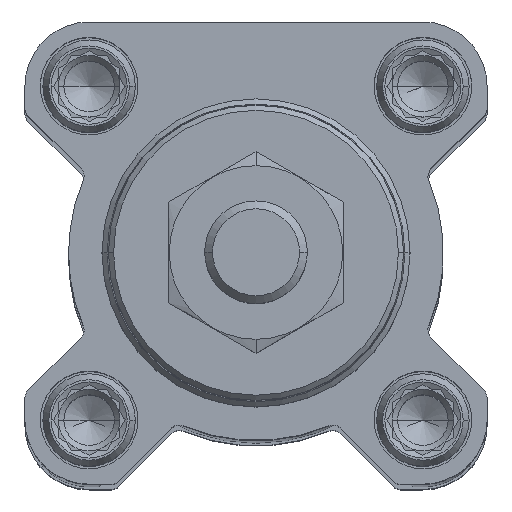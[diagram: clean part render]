
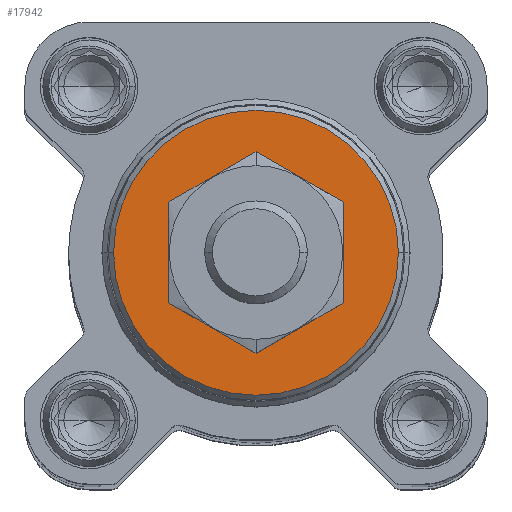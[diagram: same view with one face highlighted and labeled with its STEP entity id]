
A CAD part, top view. The second image highlights one B-rep face of the part: STEP entity #17942.
In plain terms, the highlighted planar face has unit normal (0, 0, 1).
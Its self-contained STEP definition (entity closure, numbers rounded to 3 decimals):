
#94 = CARTESIAN_POINT ( 'NONE',  ( 6., 0., 18. ) ) ;
#221 = PLANE ( 'NONE',  #2656 ) ;
#755 = CARTESIAN_POINT ( 'NONE',  ( -13.869, 0., 18. ) ) ;
#1234 = DIRECTION ( 'NONE',  ( -1., 0., 0. ) ) ;
#1266 = DIRECTION ( 'NONE',  ( -1., 0., 0. ) ) ;
#1822 = DIRECTION ( 'NONE',  ( 0., -1., 0. ) ) ;
#2422 = VERTEX_POINT ( 'NONE', #12009 ) ;
#2600 = AXIS2_PLACEMENT_3D ( 'NONE', #3843, #5544, #1234 ) ;
#2650 = EDGE_LOOP ( 'NONE', ( #8624, #3642 ) ) ;
#2656 = AXIS2_PLACEMENT_3D ( 'NONE', #7908, #6624, #1822 ) ;
#2859 = CARTESIAN_POINT ( 'NONE',  ( 0., 0., 18. ) ) ;
#3642 = ORIENTED_EDGE ( 'NONE', *, *, #17744, .F. ) ;
#3843 = CARTESIAN_POINT ( 'NONE',  ( 0., 0., 18. ) ) ;
#3958 = CIRCLE ( 'NONE', #16645, 6. ) ;
#5544 = DIRECTION ( 'NONE',  ( 0., 0., -1. ) ) ;
#5954 = VERTEX_POINT ( 'NONE', #755 ) ;
#6624 = DIRECTION ( 'NONE',  ( 0., 0., -1. ) ) ;
#6668 = DIRECTION ( 'NONE',  ( 0., 0., -1. ) ) ;
#6778 = AXIS2_PLACEMENT_3D ( 'NONE', #2859, #17889, #1266 ) ;
#7908 = CARTESIAN_POINT ( 'NONE',  ( 0., 0., 18. ) ) ;
#8624 = ORIENTED_EDGE ( 'NONE', *, *, #9187, .F. ) ;
#8631 = VERTEX_POINT ( 'NONE', #11018 ) ;
#9187 = EDGE_CURVE ( 'NONE', #5954, #2422, #11219, .T. ) ;
#10285 = AXIS2_PLACEMENT_3D ( 'NONE', #11246, #6668, #16170 ) ;
#11018 = CARTESIAN_POINT ( 'NONE',  ( -6., 0., 18. ) ) ;
#11123 = EDGE_CURVE ( 'NONE', #17124, #8631, #3958, .T. ) ;
#11219 = CIRCLE ( 'NONE', #6778, 13.869 ) ;
#11246 = CARTESIAN_POINT ( 'NONE',  ( 0., 0., 18. ) ) ;
#11533 = CIRCLE ( 'NONE', #10285, 13.869 ) ;
#12009 = CARTESIAN_POINT ( 'NONE',  ( 13.869, 0., 18. ) ) ;
#12112 = CIRCLE ( 'NONE', #2600, 6. ) ;
#13281 = DIRECTION ( 'NONE',  ( 0., 0., -1. ) ) ;
#13370 = DIRECTION ( 'NONE',  ( -1., 0., 0. ) ) ;
#13805 = EDGE_CURVE ( 'NONE', #8631, #17124, #12112, .T. ) ;
#14582 = ORIENTED_EDGE ( 'NONE', *, *, #11123, .T. ) ;
#14776 = CARTESIAN_POINT ( 'NONE',  ( 0., 0., 18. ) ) ;
#15467 = FACE_BOUND ( 'NONE', #17646, .T. ) ;
#15666 = FACE_OUTER_BOUND ( 'NONE', #2650, .T. ) ;
#16170 = DIRECTION ( 'NONE',  ( -1., 0., 0. ) ) ;
#16222 = ORIENTED_EDGE ( 'NONE', *, *, #13805, .T. ) ;
#16645 = AXIS2_PLACEMENT_3D ( 'NONE', #14776, #13281, #13370 ) ;
#17124 = VERTEX_POINT ( 'NONE', #94 ) ;
#17646 = EDGE_LOOP ( 'NONE', ( #16222, #14582 ) ) ;
#17744 = EDGE_CURVE ( 'NONE', #2422, #5954, #11533, .T. ) ;
#17889 = DIRECTION ( 'NONE',  ( 0., 0., -1. ) ) ;
#17942 = ADVANCED_FACE ( 'NONE', ( #15666, #15467 ), #221, .F. ) ;
